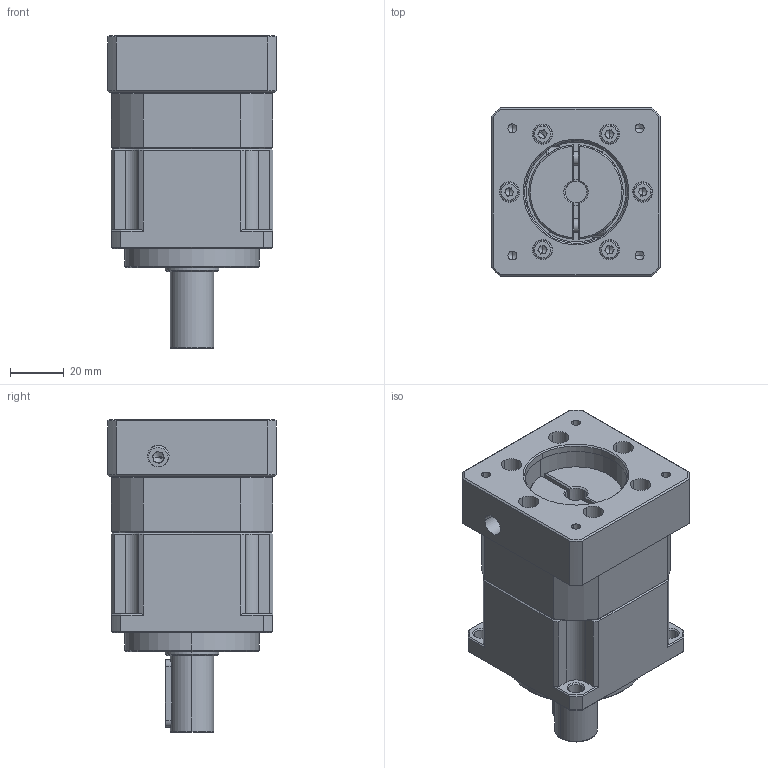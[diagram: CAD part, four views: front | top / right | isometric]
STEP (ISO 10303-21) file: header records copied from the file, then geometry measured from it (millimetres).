
FILE_DESCRIPTION (( 'STEP AP214' ), '1' );
FILE_NAME ('ZPB060-D16-L1-P1-8-38.1-47.14X47.14-M4.step', '2024-04-23T16:10:25', ( 'Windows 蚚誧' ), ( 'Organization' ), 'SwSTEP 2.0', 'SolidWorks 2016', '' );
FILE_SCHEMA (( 'AUTOMOTIVE_DESIGN' ));
Length unit declared in the file: millimetre
Products named in the file (1): ZPB060-D16-L1-P1-8-38.1-47.14X47.14-M4
Bounding box: 62.5 x 62.5 x 116 mm (x, y, z)
Volume: 245341.4 mm3; surface area: 65099.3 mm2
Topology: 12 solids, 13 shells, 1866 faces, 5014 edges, 3243 vertices
Faces by surface type: plane 1036, bspline 373, cylinder 269, cone 172, torus 16
Entity records: 96787 total; most frequent: CARTESIAN_POINT 31911, ORIENTED_EDGE 9920, DIRECTION 7803, EDGE_CURVE 4960, VECTOR 3301, LINE 3301, VERTEX_POINT 3243, AXIS2_PLACEMENT_3D 2251
